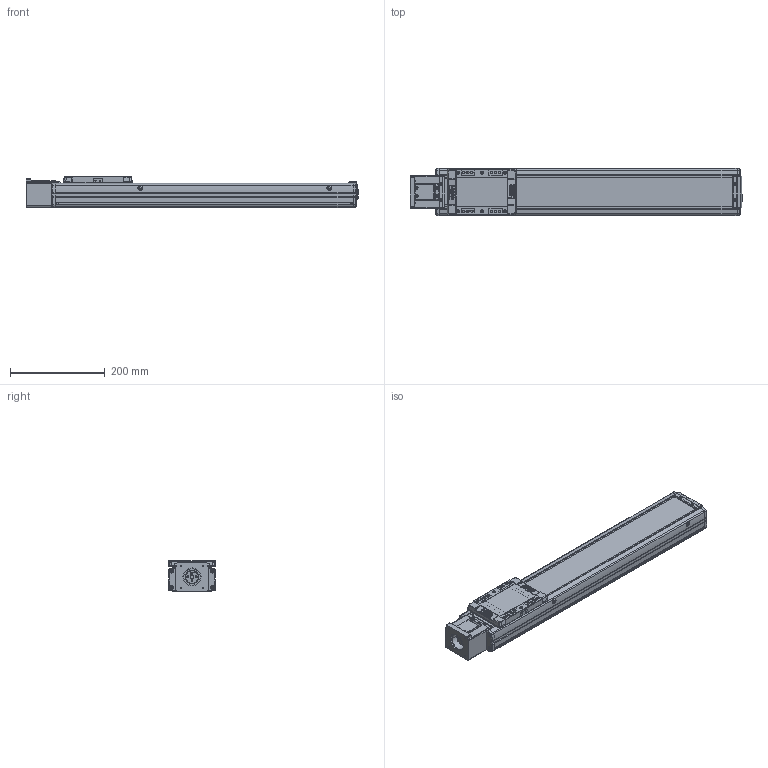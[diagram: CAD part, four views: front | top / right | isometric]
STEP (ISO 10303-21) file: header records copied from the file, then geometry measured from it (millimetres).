
FILE_DESCRIPTION(('STEP AP214'),'1');
FILE_NAME('Z:/Web/3D/SAN100/SAN100 양산용 (STEP)/SAN100ㅁㅁ-450S.stp','2013-04-26T00:06:29',(' '),(' '),'Spatial InterOp 3D',' ',' ');
FILE_SCHEMA(('automotive_design'));
Length unit declared in the file: millimetre
Products named in the file (40): SUS COVER; SFX-SAN100; RRCV-SAN100; 스크루 : Round - M4.0 x 10.0; M3.0 x 6.0; 스크루 : Round - M3.0 x 6.0; FRBL-SAN100; SLBL-SAN100; SLCV-SAN100; 스크루 : Countersunk - M3.0 x 6.0; BASE; 스크루 : Round - M5.0 x 6.0; MTHZ-SAN100-S56A; SDA26C-8-6.35; SSFX-SAN65; CPLCV-SAN65; FRCV-SAN100
Bounding box: 702.5 x 100 x 66 mm (x, y, z)
Volume: 1984729.7 mm3; surface area: 499756.4 mm2
Topology: 40 solids, 41 shells, 2412 faces, 6358 edges, 4111 vertices
Faces by surface type: plane 1141, cylinder 937, cone 217, sphere 52, torus 45, bspline 20
Entity records: 96678 total; most frequent: CARTESIAN_POINT 15279, DIRECTION 13454, ORIENTED_EDGE 12544, EDGE_CURVE 6272, AXIS2_PLACEMENT_3D 4929, VERTEX_POINT 4111, LINE 3596, VECTOR 3596
